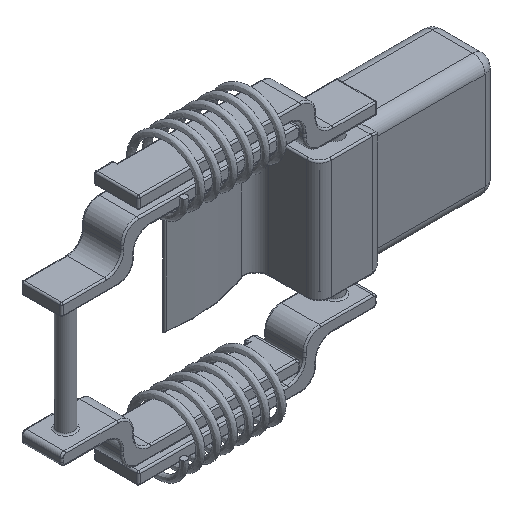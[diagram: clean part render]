
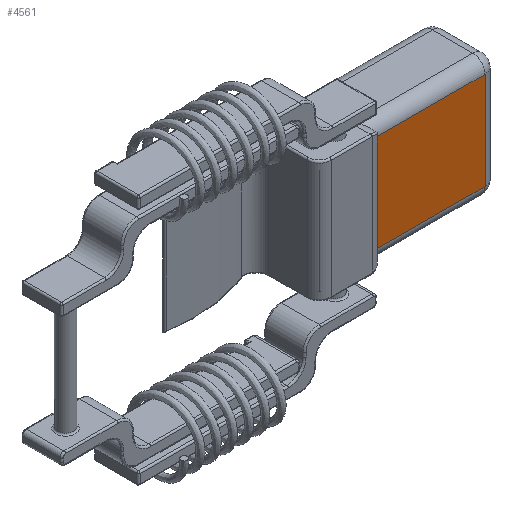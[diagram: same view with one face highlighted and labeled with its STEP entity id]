
A CAD part, isometric view. The second image highlights one B-rep face of the part: STEP entity #4561.
In plain terms, the highlighted planar face has unit normal (0, -1, 0).
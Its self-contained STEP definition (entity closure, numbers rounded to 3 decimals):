
#318=LINE('',#9215,#615);
#327=LINE('',#9263,#624);
#329=LINE('',#9267,#626);
#332=LINE('',#9272,#629);
#615=VECTOR('',#6335,10.);
#624=VECTOR('',#6392,10.);
#626=VECTOR('',#6398,10.);
#629=VECTOR('',#6405,10.);
#908=PLANE('',#5123);
#1142=FACE_OUTER_BOUND('',#1455,.T.);
#1455=EDGE_LOOP('',(#3896,#3897,#3898,#3899));
#2183=VERTEX_POINT('',#9161);
#2184=VERTEX_POINT('',#9193);
#2197=VERTEX_POINT('',#9251);
#2199=VERTEX_POINT('',#9257);
#2752=EDGE_CURVE('',#2183,#2184,#318,.T.);
#2776=EDGE_CURVE('',#2199,#2183,#327,.T.);
#2778=EDGE_CURVE('',#2197,#2199,#329,.T.);
#2781=EDGE_CURVE('',#2184,#2197,#332,.T.);
#3896=ORIENTED_EDGE('',*,*,#2776,.F.);
#3897=ORIENTED_EDGE('',*,*,#2778,.F.);
#3898=ORIENTED_EDGE('',*,*,#2781,.F.);
#3899=ORIENTED_EDGE('',*,*,#2752,.F.);
#4561=ADVANCED_FACE('',(#1142),#908,.T.);
#5123=AXIS2_PLACEMENT_3D('',#9280,#6416,#6417);
#6335=DIRECTION('',(0.,0.,1.));
#6392=DIRECTION('',(-1.,0.,0.));
#6398=DIRECTION('',(0.,0.,-1.));
#6405=DIRECTION('',(1.,0.,0.));
#6416=DIRECTION('center_axis',(0.,-1.,0.));
#6417=DIRECTION('ref_axis',(1.,0.,0.));
#9161=CARTESIAN_POINT('',(19.5,1.2,-6.));
#9193=CARTESIAN_POINT('',(19.5,1.2,6.));
#9215=CARTESIAN_POINT('',(19.5,1.2,-7.5));
#9251=CARTESIAN_POINT('',(33.,1.2,6.));
#9257=CARTESIAN_POINT('',(33.,1.2,-6.));
#9263=CARTESIAN_POINT('',(19.07,1.2,-6.));
#9267=CARTESIAN_POINT('',(33.,1.2,-7.5));
#9272=CARTESIAN_POINT('',(19.07,1.2,6.));
#9280=CARTESIAN_POINT('Origin',(19.5,1.2,-7.5));
